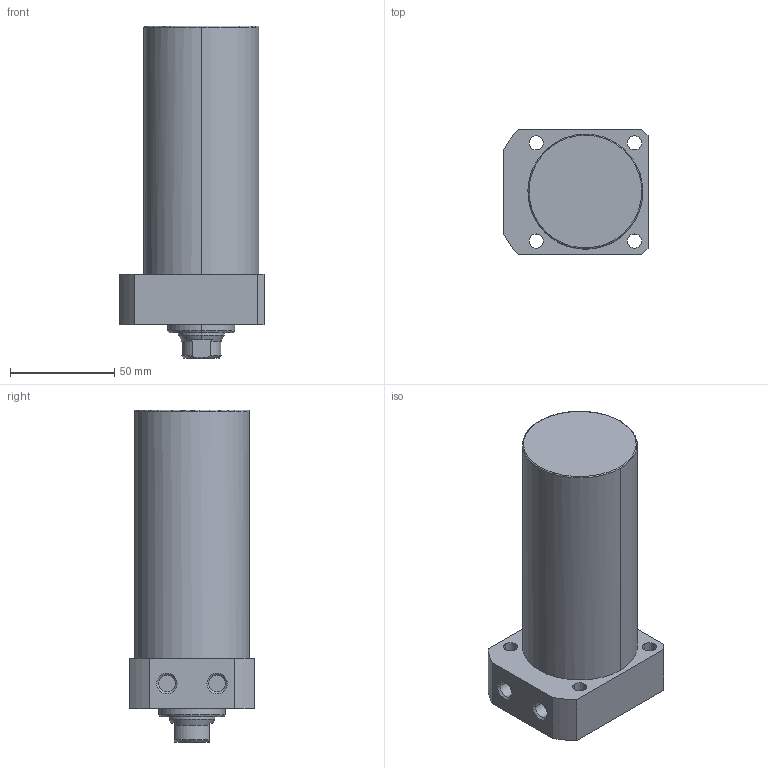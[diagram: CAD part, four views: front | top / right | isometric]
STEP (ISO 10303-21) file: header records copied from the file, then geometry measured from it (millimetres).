
FILE_DESCRIPTION((' '),'2;1');
FILE_NAME( 'TLLR-055CA-090.STEP.stp', '2025-10-24T16:34:42', (' '), ('--- Datakit www.datakit.com---'), ' Datakit CrossCadWare V2024.1 Dec 21 2023', 'Mastercam 2025', ' ');
FILE_SCHEMA(('AUTOMOTIVE_DESIGN { 1 0 10303 214 1 1 1 1 }'));
Length unit declared in the file: millimetre
Products named in the file (1): TLLR-055CA-090
Bounding box: 69 x 60 x 159 mm (x, y, z)
Volume: 380351.2 mm3; surface area: 38848.7 mm2
Topology: 1 solids, 1 shells, 63 faces, 177 edges, 122 vertices
Faces by surface type: cylinder 28, plane 19, cone 14, torus 2
Entity records: 2164 total; most frequent: CARTESIAN_POINT 401, DIRECTION 400, ORIENTED_EDGE 350, EDGE_CURVE 175, AXIS2_PLACEMENT_3D 169, VERTEX_POINT 122, CIRCLE 105, EDGE_LOOP 79
